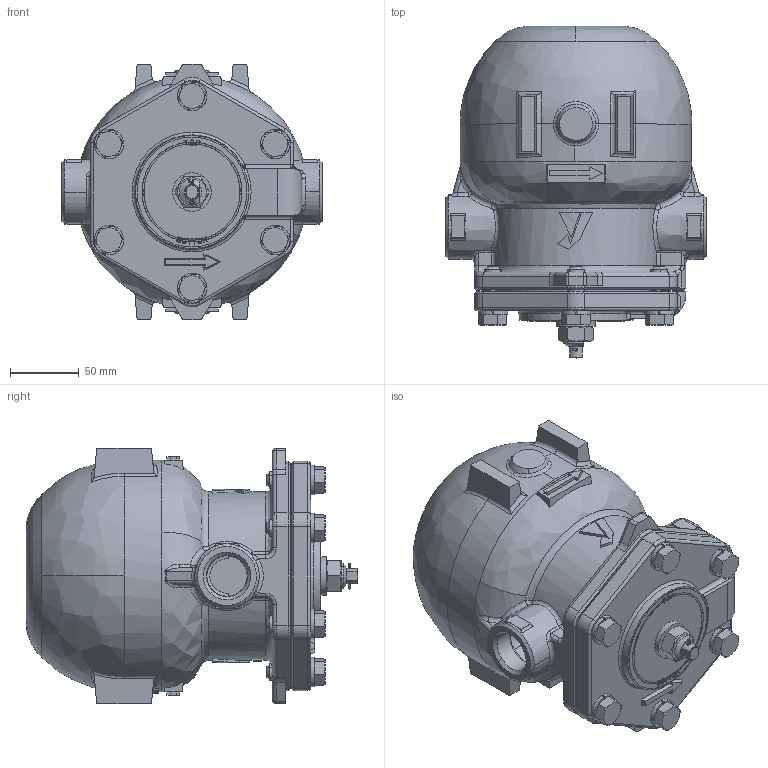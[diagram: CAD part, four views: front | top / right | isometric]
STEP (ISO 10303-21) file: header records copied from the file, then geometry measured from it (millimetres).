
FILE_DESCRIPTION( (''), '2;1');
FILE_NAME ('PC1027.12188.TSF-11S JISRc 25A_18654.stp','2025-07-31T09:27:48',(''),(''),'spGate 20.6.3 (****-****-****-****)','','');
FILE_SCHEMA (('AUTOMOTIVE_DESIGN'));
Length unit declared in the file: millimetre
Products named in the file (11): Assembly; 3D_@TSF-10_@_____s__; 3D_@TSF-10_@_Z_p_i_b_g; 3D_@TSF-10_@_J___[; 3D_@TSF-11_@________; ____; _R_b_N____; CP_''_JIS B 1180 _____a_Z_p_{___g''_17168; SSLW12; ________; _{__25A ____
Assembly tree (20 placements, depth 2):
  Assembly
    3D_@TSF-10_@_____s__
    3D_@TSF-10_@_Z_p_i_b_g
    3D_@TSF-10_@_J___[
    3D_@TSF-11_@________
    ____
    _R_b_N____
    CP_''_JIS B 1180 _____a_Z_p_{___g''_17168  x6
    SSLW12  x6
    ________
    _{__25A ____
Bounding box: 190 x 242 x 186 mm (x, y, z)
Volume: 3781506 mm3; surface area: 241219.8 mm2
Topology: 20 solids, 20 shells, 990 faces, 3147 edges, 2208 vertices
Faces by surface type: plane 456, bspline 322, cylinder 212
Entity records: 69865 total; most frequent: CARTESIAN_POINT 31278, ORIENTED_EDGE 5202, COLOUR_RGB 3451, PRESENTATION_STYLE_ASSIGNMENT 3451, STYLED_ITEM 3451, DIRECTION 2683, EDGE_CURVE 2601, DRAUGHTING_PRE_DEFINED_CURVE_FONT 2601
